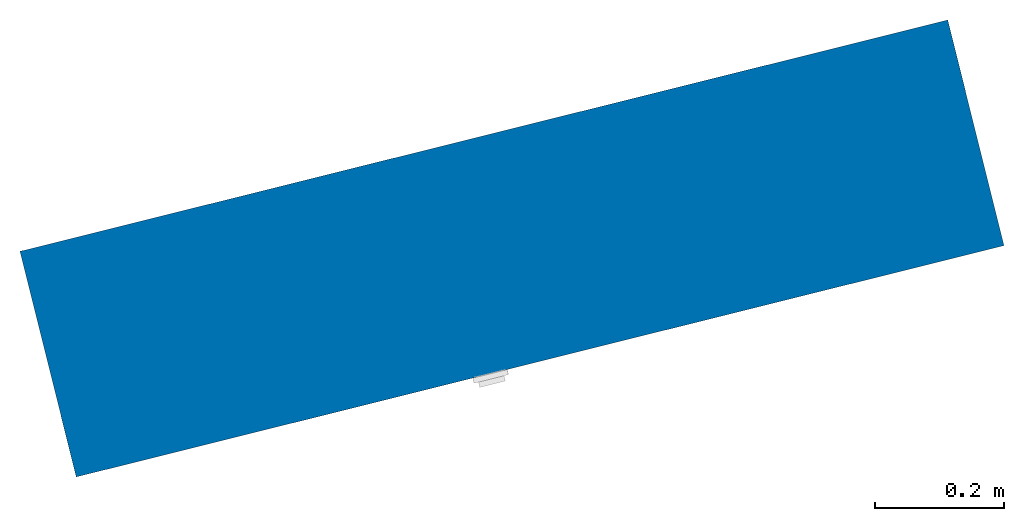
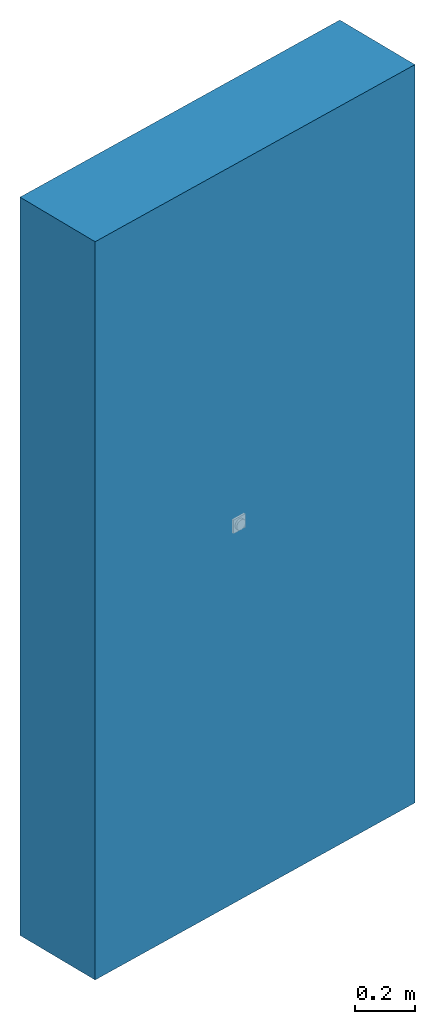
# One storey, part 1 of 2: 1 wall.
"""IFC2X3 building model written with IfcOpenShell, lengths in metres."""

from ifc_helpers import new_model, entity, si_unit, converted_unit, derived_unit, direction, frame, frame_2d, origin, place, context, subcontext, project, spatial, rectangle, extrude, material, layer, layer_set, layer_usage, type_object, element, save


model = new_model("IFC2X3")

# Units and contexts
model_context = context("Model", 3, precision=1e-05, world=origin(), true_north=direction((6.12303176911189e-17, 1.0)))
body_context = subcontext(model_context, "Body", "Model", "MODEL_VIEW")
ifc_project = project(units=[si_unit("LENGTHUNIT", "METRE"), si_unit("AREAUNIT", "SQUARE_METRE"), si_unit("VOLUMEUNIT", "CUBIC_METRE"), converted_unit("PLANEANGLEUNIT", "DEGREE", entity("IfcRatioMeasure", 0.0174532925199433), si_unit("PLANEANGLEUNIT", "RADIAN"), dimensions=[0, 0, 0, 0, 0, 0, 0]), si_unit("MASSUNIT", "GRAM", prefix="KILO"), si_unit("TIMEUNIT", "SECOND"), si_unit("FREQUENCYUNIT", "HERTZ"), si_unit("THERMODYNAMICTEMPERATUREUNIT", "DEGREE_CELSIUS"), derived_unit("THERMALTRANSMITTANCEUNIT", [(si_unit("MASSUNIT", "GRAM", prefix="KILO"), 1), (si_unit("THERMODYNAMICTEMPERATUREUNIT", "KELVIN"), -1), (si_unit("TIMEUNIT", "SECOND"), -3)]), derived_unit("VOLUMETRICFLOWRATEUNIT", [(si_unit("LENGTHUNIT", "METRE"), 3), (si_unit("TIMEUNIT", "SECOND"), -1)]), si_unit("ELECTRICCURRENTUNIT", "AMPERE"), si_unit("ELECTRICVOLTAGEUNIT", "VOLT"), si_unit("POWERUNIT", "WATT"), si_unit("FORCEUNIT", "NEWTON", prefix="KILO"), si_unit("ILLUMINANCEUNIT", "LUX"), si_unit("LUMINOUSFLUXUNIT", "LUMEN"), si_unit("LUMINOUSINTENSITYUNIT", "CANDELA"), derived_unit("USERDEFINED", [(si_unit("MASSUNIT", "GRAM", prefix="KILO"), -1), (si_unit("LENGTHUNIT", "METRE"), -2), (si_unit("TIMEUNIT", "SECOND"), 3), (si_unit("LUMINOUSFLUXUNIT", "LUMEN"), 1)]), derived_unit("LINEARVELOCITYUNIT", [(si_unit("LENGTHUNIT", "METRE"), 1), (si_unit("TIMEUNIT", "SECOND"), -1)]), si_unit("PRESSUREUNIT", "PASCAL"), derived_unit("USERDEFINED", [(si_unit("LENGTHUNIT", "METRE"), -2), (si_unit("MASSUNIT", "GRAM", prefix="KILO"), 1), (si_unit("TIMEUNIT", "SECOND"), -2)])], contexts=[model_context])

# Site, building, storey
site_placement = place(None, origin())
site = spatial("IfcSite", under=ifc_project, at=site_placement, Name="Default", CompositionType="ELEMENT")
building_placement = place(site_placement, origin())
building = spatial("IfcBuilding", under=site, at=building_placement, CompositionType="ELEMENT")
storey_placement = place(building_placement, origin())
storey = spatial("IfcBuildingStorey", under=building, at=storey_placement, Name="Ebene 0", CompositionType="ELEMENT", Elevation=0.0)

# Wall
ifc_material_1 = material(Name="Wärmedämmung - hart")
ifc_layer_1 = layer(ifc_material_1, 0.12)
ifc_material_2 = material(Name="Mauerwerk - Ziegel, verputzt")
ifc_layer_2 = layer(ifc_material_2, 0.24)
ifc_layer_set = layer_set([ifc_layer_1, ifc_layer_2], Name="Basiswand:MW 24.0 WD 12.0")
ifc_layer_usage = layer_usage(ifc_layer_set, "AXIS2", "NEGATIVE", 0.18)
wall_type = type_object("IfcWallType", Name="Basiswand:MW 24.0 WD 12.0", PredefinedType="STANDARD", material=ifc_layer_set)
wall_placement = place(storey_placement, frame((1.75053323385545, 2.64430612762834, 0.0), z_axis=(0.0, 0.0, 1.0), x_axis=(0.970295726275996, 0.241921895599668, 0.0)))
element("IfcWallStandardCase", 1, at=wall_placement, inside=storey, type_object=wall_type, material=ifc_layer_usage, Name="Basiswand:MW 24.0 WD 12.0", ObjectType="Basiswand:MW 24.0 WD 12.0:3900", context=body_context, shape_type="SweptSolid", body=[
    extrude(rectangle(XDim=1.48, YDim=0.36, at=frame_2d((0.74, 4.16333634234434e-17), x_axis=(-1.0, 0.0))), origin(), (0.0, 0.0, 1.0), 3.0),
])

save(model, "model.ifc")
